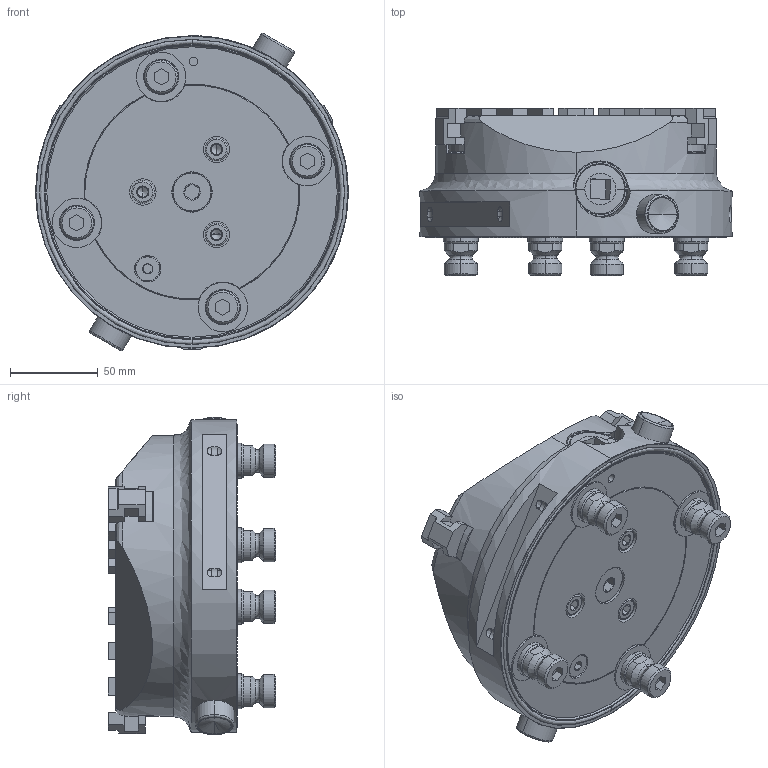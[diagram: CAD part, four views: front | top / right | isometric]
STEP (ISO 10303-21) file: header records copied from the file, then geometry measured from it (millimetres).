
FILE_DESCRIPTION (( 'STEP AP203' ), '1' );
FILE_NAME ('51160.STEP', '2014-09-04T11:28:40', ( '' ), ( '' ), 'SwSTEP 2.0', 'SolidWorks 2011', '' );
FILE_SCHEMA (( 'CONFIG_CONTROL_DESIGN' ));
Products named in the file (1): 51160
Bounding box: 178 x 95.4 x 180.87 mm (x, y, z)
Volume: 1232365.7 mm3; surface area: 279503.2 mm2
Topology: 34 solids, 34 shells, 1816 faces, 4591 edges, 2927 vertices
Faces by surface type: plane 809, cylinder 377, bspline 356, cone 268, torus 6
Entity records: 73084 total; most frequent: CARTESIAN_POINT 31350, ORIENTED_EDGE 9058, DIRECTION 7871, EDGE_CURVE 4529, VERTEX_POINT 2927, AXIS2_PLACEMENT_3D 2680, VECTOR 2511, LINE 2511
